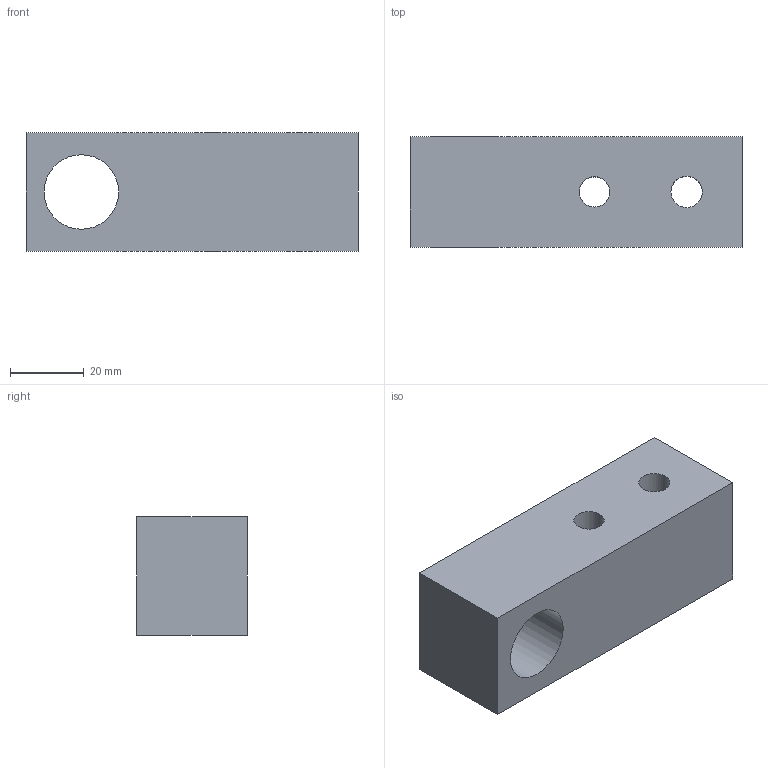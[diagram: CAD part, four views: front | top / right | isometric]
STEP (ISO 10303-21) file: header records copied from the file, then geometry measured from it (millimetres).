
FILE_DESCRIPTION(('Open CASCADE Model'),'2;1');
FILE_NAME('Open CASCADE Shape Model','2026-10-28T04:26:17',('Author'),( 'Open CASCADE'),'Open CASCADE STEP processor 7.8','Open CASCADE 7.8' ,'Unknown');
FILE_SCHEMA(('AUTOMOTIVE_DESIGN { 1 0 10303 214 1 1 1 1 }'));
Length unit declared in the file: millimetre
Products named in the file (1): Open CASCADE STEP translator 7.8 4
Bounding box: 90 x 30 x 32 mm (x, y, z)
Volume: 73259.3 mm3; surface area: 15806.3 mm2
Topology: 1 solids, 1 shells, 9 faces, 21 edges, 14 vertices
Faces by surface type: plane 6, cylinder 3
Full cylindrical faces by diameter (mm): 8.25 x1, 8.5 x1, 20.2 x1
Entity records: 568 total; most frequent: CARTESIAN_POINT 111, DIRECTION 85, LINE 51, VECTOR 51, ORIENTED_EDGE 42, PCURVE 42, DEFINITIONAL_REPRESENTATION 42, EDGE_CURVE 21
